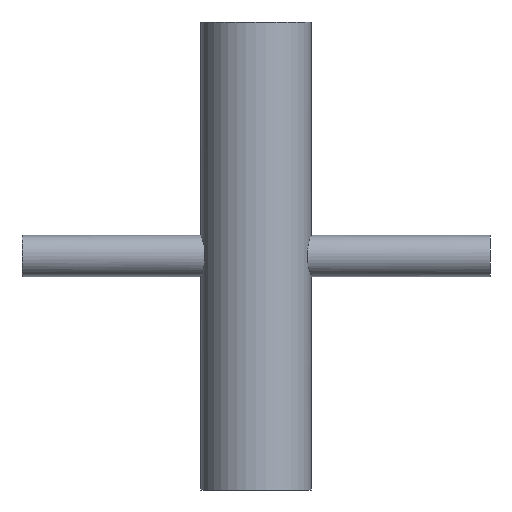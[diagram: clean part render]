
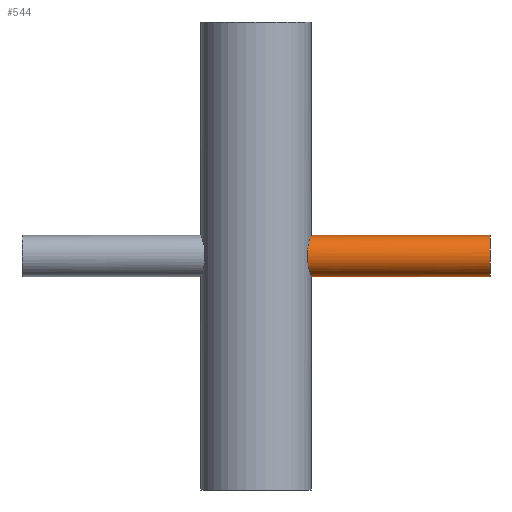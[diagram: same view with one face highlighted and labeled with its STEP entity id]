
A CAD part, front view. The second image highlights one B-rep face of the part: STEP entity #544.
In plain terms, the highlighted cylindrical face has radius 4.763 mm (diameter 9.525 mm), a partial arc.
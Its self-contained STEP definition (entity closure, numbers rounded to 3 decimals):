
#5 = CARTESIAN_POINT ( 'NONE',  ( 12.7, -0.318, -4.762 ) ) ;
#7 = CARTESIAN_POINT ( 'NONE',  ( 12.011, -4.13, -2.393 ) ) ;
#12 = CARTESIAN_POINT ( 'NONE',  ( 12.011, -4.13, 2.392 ) ) ;
#43 = CARTESIAN_POINT ( 'NONE',  ( 12.7, 0., 4.763 ) ) ;
#70 = CARTESIAN_POINT ( 'NONE',  ( 11.893, -4.455, -1.692 ) ) ;
#73 = VECTOR ( 'NONE', #317, 1000. ) ;
#74 = CARTESIAN_POINT ( 'NONE',  ( 12.185, -3.588, 3.147 ) ) ;
#79 = DIRECTION ( 'NONE',  ( 0., 0., -1. ) ) ;
#133 = CARTESIAN_POINT ( 'NONE',  ( 12.688, -0.629, -4.731 ) ) ;
#135 = FACE_OUTER_BOUND ( 'NONE', #453, .T. ) ;
#139 = CARTESIAN_POINT ( 'NONE',  ( 11.838, -4.599, -1.246 ) ) ;
#140 = CARTESIAN_POINT ( 'NONE',  ( 12.364, -2.914, 3.78 ) ) ;
#144 = LINE ( 'NONE', #232, #603 ) ;
#187 = AXIS2_PLACEMENT_3D ( 'NONE', #499, #560, #79 ) ;
#190 = CARTESIAN_POINT ( 'NONE',  ( 12.609, -1.546, -4.515 ) ) ;
#195 = CARTESIAN_POINT ( 'NONE',  ( 11.786, -4.731, -0.63 ) ) ;
#199 = CARTESIAN_POINT ( 'NONE',  ( 12.525, -2.122, 4.275 ) ) ;
#231 = CYLINDRICAL_SURFACE ( 'NONE', #187, 4.763 ) ;
#232 = CARTESIAN_POINT ( 'NONE',  ( -53.975, 0., -4.763 ) ) ;
#250 = CARTESIAN_POINT ( 'NONE',  ( 12.475, -2.394, -4.129 ) ) ;
#253 = CARTESIAN_POINT ( 'NONE',  ( 11.773, -4.763, 0.308 ) ) ;
#256 = CARTESIAN_POINT ( 'NONE',  ( 12.642, -1.253, 4.606 ) ) ;
#286 = VERTEX_POINT ( 'NONE', #526 ) ;
#291 = ORIENTED_EDGE ( 'NONE', *, *, #545, .F. ) ;
#293 = ORIENTED_EDGE ( 'NONE', *, *, #519, .F. ) ;
#307 = CARTESIAN_POINT ( 'NONE',  ( 12.305, -3.151, -3.584 ) ) ;
#310 = CARTESIAN_POINT ( 'NONE',  ( 11.834, -4.609, 1.24 ) ) ;
#313 = CARTESIAN_POINT ( 'NONE',  ( 12.7, -0.318, 4.763 ) ) ;
#317 = DIRECTION ( 'NONE',  ( 1., 0., 0. ) ) ;
#363 = VERTEX_POINT ( 'NONE', #501 ) ;
#369 = CARTESIAN_POINT ( 'NONE',  ( 12.125, -3.782, -2.911 ) ) ;
#371 = CARTESIAN_POINT ( 'NONE',  ( 11.959, -4.277, 2.119 ) ) ;
#404 = EDGE_CURVE ( 'NONE', #363, #414, #598, .T. ) ;
#414 = VERTEX_POINT ( 'NONE', #452 ) ;
#416 = LINE ( 'NONE', #680, #73 ) ;
#428 = CARTESIAN_POINT ( 'NONE',  ( 12.7, 0., -4.763 ) ) ;
#430 = CARTESIAN_POINT ( 'NONE',  ( 11.959, -4.276, -2.121 ) ) ;
#433 = CARTESIAN_POINT ( 'NONE',  ( 12.124, -3.787, 2.905 ) ) ;
#452 = CARTESIAN_POINT ( 'NONE',  ( 53.975, 0., 4.763 ) ) ;
#453 = EDGE_LOOP ( 'NONE', ( #291, #293, #588, #710 ) ) ;
#467 = CARTESIAN_POINT ( 'NONE',  ( 53.975, 0., 0. ) ) ;
#491 = CARTESIAN_POINT ( 'NONE',  ( 11.873, -4.507, -1.546 ) ) ;
#495 = CARTESIAN_POINT ( 'NONE',  ( 12.305, -3.151, 3.584 ) ) ;
#499 = CARTESIAN_POINT ( 'NONE',  ( -53.975, 0., 0. ) ) ;
#501 = CARTESIAN_POINT ( 'NONE',  ( 53.975, 0., -4.763 ) ) ;
#519 = EDGE_CURVE ( 'NONE', #286, #722, #774, .T. ) ;
#526 = CARTESIAN_POINT ( 'NONE',  ( 12.7, 0., -4.763 ) ) ;
#527 = DIRECTION ( 'NONE',  ( 1., 0., 0. ) ) ;
#544 = ADVANCED_FACE ( 'NONE', ( #135 ), #231, .T. ) ;
#545 = EDGE_CURVE ( 'NONE', #722, #414, #416, .T. ) ;
#551 = CARTESIAN_POINT ( 'NONE',  ( 12.643, -1.242, -4.608 ) ) ;
#553 = CARTESIAN_POINT ( 'NONE',  ( 11.823, -4.638, -1.092 ) ) ;
#556 = CARTESIAN_POINT ( 'NONE',  ( 12.474, -2.4, 4.125 ) ) ;
#558 = AXIS2_PLACEMENT_3D ( 'NONE', #467, #636, #584 ) ;
#560 = DIRECTION ( 'NONE',  ( 1., 0., 0. ) ) ;
#584 = DIRECTION ( 'NONE',  ( 0., 0., -1. ) ) ;
#588 = ORIENTED_EDGE ( 'NONE', *, *, #757, .T. ) ;
#598 = CIRCLE ( 'NONE', #558, 4.763 ) ;
#603 = VECTOR ( 'NONE', #527, 1000. ) ;
#610 = CARTESIAN_POINT ( 'NONE',  ( 12.525, -2.122, -4.275 ) ) ;
#611 = CARTESIAN_POINT ( 'NONE',  ( 11.773, -4.762, -0.32 ) ) ;
#614 = CARTESIAN_POINT ( 'NONE',  ( 12.608, -1.55, 4.514 ) ) ;
#636 = DIRECTION ( 'NONE',  ( -1., 0., 0. ) ) ;
#669 = CARTESIAN_POINT ( 'NONE',  ( 12.365, -2.909, -3.783 ) ) ;
#673 = CARTESIAN_POINT ( 'NONE',  ( 11.786, -4.731, 0.627 ) ) ;
#677 = CARTESIAN_POINT ( 'NONE',  ( 12.688, -0.634, 4.731 ) ) ;
#680 = CARTESIAN_POINT ( 'NONE',  ( -53.975, 0., 4.763 ) ) ;
#710 = ORIENTED_EDGE ( 'NONE', *, *, #404, .T. ) ;
#722 = VERTEX_POINT ( 'NONE', #43 ) ;
#725 = CARTESIAN_POINT ( 'NONE',  ( 12.185, -3.586, -3.149 ) ) ;
#728 = CARTESIAN_POINT ( 'NONE',  ( 11.87, -4.518, 1.538 ) ) ;
#731 = CARTESIAN_POINT ( 'NONE',  ( 12.7, 0., 4.763 ) ) ;
#757 = EDGE_CURVE ( 'NONE', #286, #363, #144, .T. ) ;
#774 = B_SPLINE_CURVE_WITH_KNOTS ( 'NONE', 3,
 ( #428, #5, #133, #551, #190, #610, #250, #669, #307, #725, #369, #7, #430, #70, #491, #139, #553, #195, #611, #253, #673, #310, #728, #371, #12, #433, #74, #495, #140, #556, #199, #614, #256, #677, #313, #731 ),
 .UNSPECIFIED., .F., .F.,
 ( 4, 2, 2, 2, 2, 2, 2, 2, 2, 2, 2, 2, 2, 2, 2, 2, 2, 4 ),
 ( 0.015, 0.016, 0.017, 0.018, 0.019, 0.02, 0.021, 0.021, 0.022, 0.023, 0.023, 0.024, 0.025, 0.026, 0.027, 0.028, 0.029, 0.03 ),
 .UNSPECIFIED. ) ;
